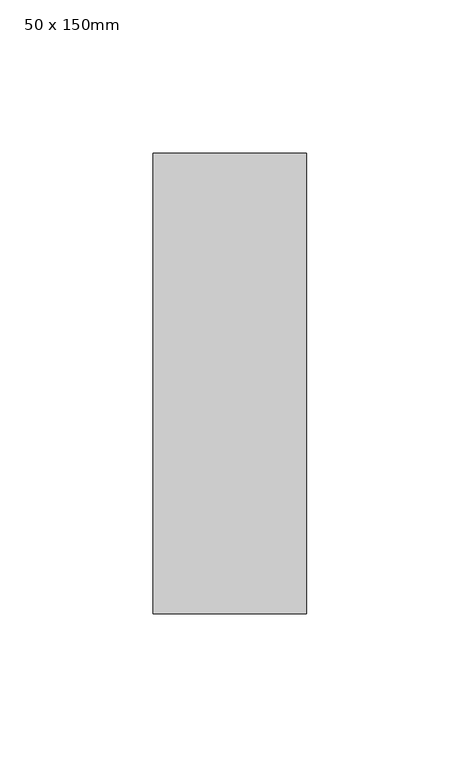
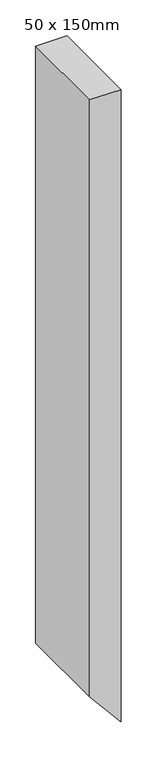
"""IFC4 building model written with IfcOpenShell, lengths in millimetres: member geometry, 矩形豎框 : 50 x 150mm."""

from ifc_helpers import new_model, si_unit, frame, origin, place, context, project, spatial, polyline, outline, extrude, source, transform, mapped, element, save


def member_50_x_150mm_99484d71(model_context):
    return source(origin(), model_context, "Body", "SweptSolid", [
        extrude(outline(polyline([(0.0, 0.0), (0.0, -50.0), (-1013.3797736, -50.0), (-1072.9674532, 0.0), (0.0, 0.0)])), frame((0.0, -75.0, 0.0), z_axis=(0.0, 1.0, 0.0), x_axis=(0.0, 0.0, 1.0)), (0.0, 0.0, 1.0), 150.0),
    ])


if __name__ == "__main__":
    model = new_model("IFC4")
    model_context = context("Model", 3, world=origin())
    ifc_project = project(units=[si_unit("LENGTHUNIT", "METRE", prefix="MILLI")], contexts=[model_context])
    site = spatial("IfcSite", under=ifc_project)
    building = spatial("IfcBuilding", under=site)
    placement = place(None, origin())
    member_50_x_150mm_shape = member_50_x_150mm_99484d71(model_context)
    element("IfcMember", 1, ObjectType="矩形豎框 : 50 x 150mm", at=placement, inside=building, context=model_context, shape_type="MappedRepresentation", body=[
        mapped(member_50_x_150mm_shape, transform((0.0, 0.0, 0.0), x_axis=(1.0, 0.0, 0.0), y_axis=(0.0, 1.0, 0.0), z_axis=(0.0, 0.0, 1.0))),
    ])
    save(model, "model.ifc")
